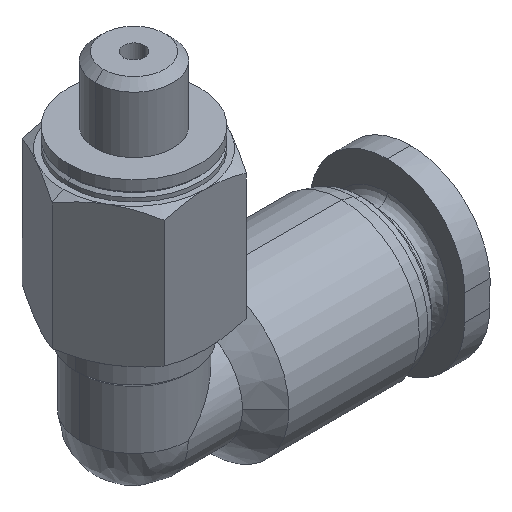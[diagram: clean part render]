
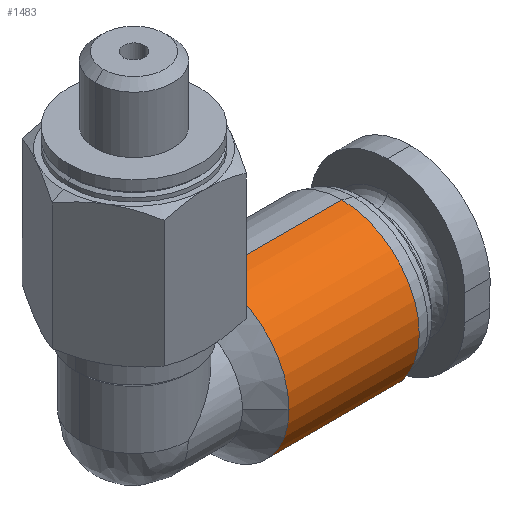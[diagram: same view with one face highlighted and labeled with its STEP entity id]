
A CAD part, isometric view. The second image highlights one B-rep face of the part: STEP entity #1483.
In plain terms, the highlighted cylindrical face has radius 3 mm (diameter 6 mm), a partial arc.
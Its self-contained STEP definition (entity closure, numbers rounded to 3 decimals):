
#133 = CIRCLE ( 'NONE', #1414, 3. ) ;
#245 = VERTEX_POINT ( 'NONE', #419 ) ;
#269 = VERTEX_POINT ( 'NONE', #1493 ) ;
#291 = CARTESIAN_POINT ( 'NONE',  ( 3., 0., 0. ) ) ;
#320 = FACE_OUTER_BOUND ( 'NONE', #2273, .T. ) ;
#383 = DIRECTION ( 'NONE',  ( 1., 0., 0. ) ) ;
#411 = EDGE_CURVE ( 'NONE', #245, #694, #484, .T. ) ;
#419 = CARTESIAN_POINT ( 'NONE',  ( 8.043, 0., -3. ) ) ;
#435 = ORIENTED_EDGE ( 'NONE', *, *, #2366, .T. ) ;
#481 = CARTESIAN_POINT ( 'NONE',  ( 11., 0., -3. ) ) ;
#484 = CIRCLE ( 'NONE', #830, 3. ) ;
#668 = EDGE_CURVE ( 'NONE', #753, #269, #133, .T. ) ;
#673 = DIRECTION ( 'NONE',  ( -1., 0., 0. ) ) ;
#674 = DIRECTION ( 'NONE',  ( 0., 0., 1. ) ) ;
#694 = VERTEX_POINT ( 'NONE', #1807 ) ;
#753 = VERTEX_POINT ( 'NONE', #2120 ) ;
#788 = DIRECTION ( 'NONE',  ( -1., 0., 0. ) ) ;
#809 = CARTESIAN_POINT ( 'NONE',  ( 3., 0., -3. ) ) ;
#830 = AXIS2_PLACEMENT_3D ( 'NONE', #2265, #1536, #1999 ) ;
#919 = VECTOR ( 'NONE', #673, 1000. ) ;
#1019 = ORIENTED_EDGE ( 'NONE', *, *, #2308, .T. ) ;
#1165 = CARTESIAN_POINT ( 'NONE',  ( 11., 0., 0. ) ) ;
#1197 = AXIS2_PLACEMENT_3D ( 'NONE', #1165, #788, #1370 ) ;
#1287 = ORIENTED_EDGE ( 'NONE', *, *, #668, .T. ) ;
#1370 = DIRECTION ( 'NONE',  ( 0., 0., 1. ) ) ;
#1414 = AXIS2_PLACEMENT_3D ( 'NONE', #291, #2389, #674 ) ;
#1426 = AXIS2_PLACEMENT_3D ( 'NONE', #1531, #383, #1726 ) ;
#1483 = ADVANCED_FACE ( 'NONE', ( #320 ), #2184, .T. ) ;
#1493 = CARTESIAN_POINT ( 'NONE',  ( 3., -3., 0. ) ) ;
#1531 = CARTESIAN_POINT ( 'NONE',  ( 3., 0., 0. ) ) ;
#1536 = DIRECTION ( 'NONE',  ( -1., 0., 0. ) ) ;
#1549 = CARTESIAN_POINT ( 'NONE',  ( 11., 0., 3. ) ) ;
#1565 = VECTOR ( 'NONE', #1737, 1000. ) ;
#1613 = LINE ( 'NONE', #1549, #1565 ) ;
#1687 = VERTEX_POINT ( 'NONE', #809 ) ;
#1726 = DIRECTION ( 'NONE',  ( 0., 0., 1. ) ) ;
#1737 = DIRECTION ( 'NONE',  ( -1., 0., 0. ) ) ;
#1744 = EDGE_CURVE ( 'NONE', #245, #1687, #2334, .T. ) ;
#1807 = CARTESIAN_POINT ( 'NONE',  ( 8.043, 0., 3. ) ) ;
#1999 = DIRECTION ( 'NONE',  ( 0., 0., 1. ) ) ;
#2006 = ORIENTED_EDGE ( 'NONE', *, *, #411, .T. ) ;
#2118 = ORIENTED_EDGE ( 'NONE', *, *, #1744, .F. ) ;
#2120 = CARTESIAN_POINT ( 'NONE',  ( 3., 0., 3. ) ) ;
#2183 = CIRCLE ( 'NONE', #1426, 3. ) ;
#2184 = CYLINDRICAL_SURFACE ( 'NONE', #1197, 3. ) ;
#2265 = CARTESIAN_POINT ( 'NONE',  ( 8.043, 0., 0. ) ) ;
#2273 = EDGE_LOOP ( 'NONE', ( #2118, #2006, #435, #1287, #1019 ) ) ;
#2308 = EDGE_CURVE ( 'NONE', #269, #1687, #2183, .T. ) ;
#2334 = LINE ( 'NONE', #481, #919 ) ;
#2366 = EDGE_CURVE ( 'NONE', #694, #753, #1613, .T. ) ;
#2389 = DIRECTION ( 'NONE',  ( 1., 0., 0. ) ) ;
